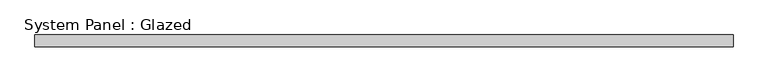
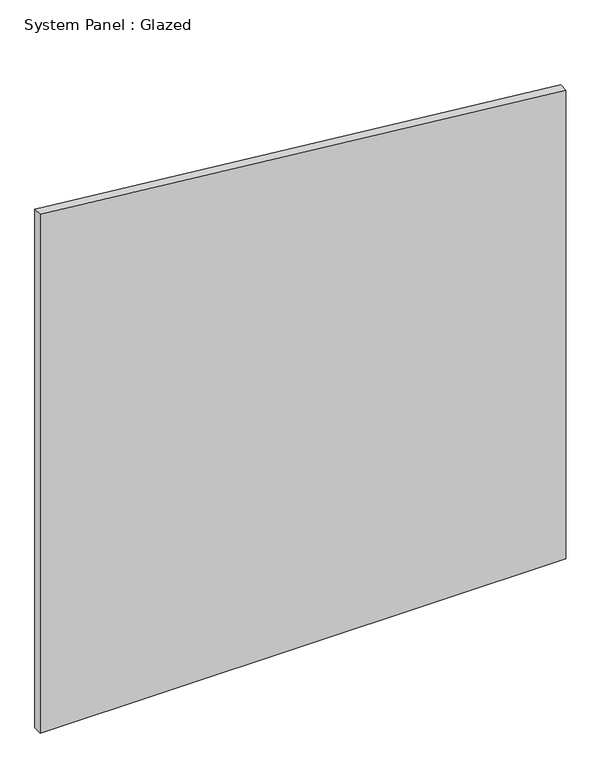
"""IFC4 building model written with IfcOpenShell, lengths in millimetres: plate geometry, System Panel : Glazed."""

from ifc_helpers import new_model, si_unit, frame, origin, place, context, project, spatial, polyline, outline, extrude, source, transform, mapped, element, save


def system_panel_glazed_77d6ea3c(model_context):
    return source(origin(), model_context, "Body", "SweptSolid", [
        extrude(outline(polyline([(0.0, -735.8695652), (0.0, 735.8695652), (1387.4709318, 735.8695652), (1535.4539105, -735.8695652), (0.0, -735.8695652)])), frame((0.0, 24.5, 0.0), z_axis=(0.0, 1.0, 0.0), x_axis=(0.0, 0.0, 1.0)), (0.0, 0.0, 1.0), 25.0),
    ])


if __name__ == "__main__":
    model = new_model("IFC4")
    model_context = context("Model", 3, world=origin())
    ifc_project = project(units=[si_unit("LENGTHUNIT", "METRE", prefix="MILLI")], contexts=[model_context])
    site = spatial("IfcSite", under=ifc_project)
    building = spatial("IfcBuilding", under=site)
    placement = place(None, origin())
    system_panel_glazed_shape = system_panel_glazed_77d6ea3c(model_context)
    element("IfcPlate", 1, ObjectType="System Panel : Glazed", at=placement, inside=building, context=model_context, shape_type="MappedRepresentation", body=[
        mapped(system_panel_glazed_shape, transform((0.0, 0.0, 0.0), x_axis=(1.0, 0.0, 0.0), y_axis=(0.0, 1.0, 0.0), z_axis=(0.0, 0.0, 1.0))),
    ])
    save(model, "model.ifc")
